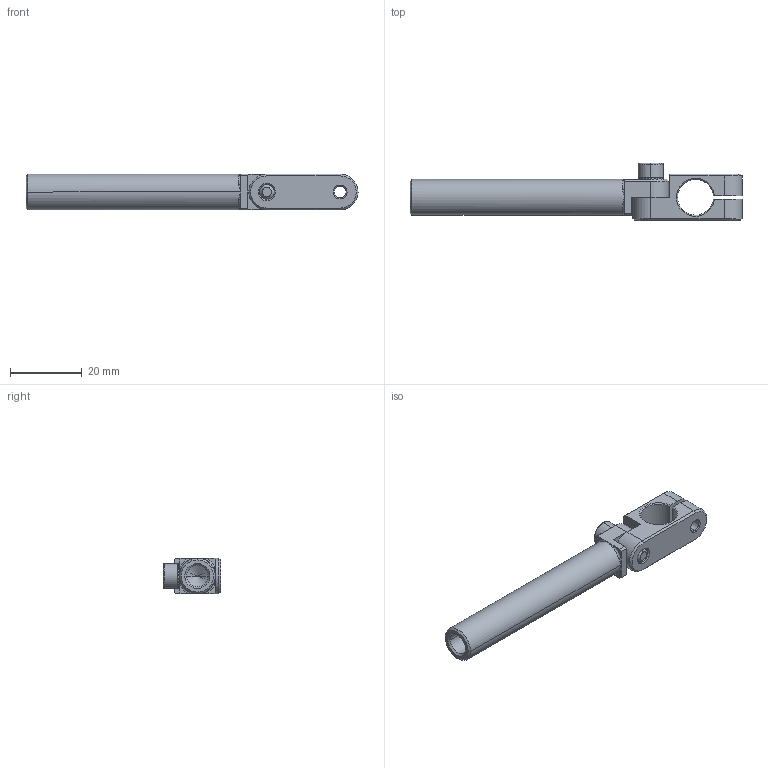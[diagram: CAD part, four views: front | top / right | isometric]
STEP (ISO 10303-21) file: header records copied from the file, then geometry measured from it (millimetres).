
FILE_DESCRIPTION (( 'STEP AP214' ), '1' );
FILE_NAME ('SEA-1010L60.STEP', '2019-11-11T02:23:12', ( '微软用户' ), ( '微软中国' ), 'SwSTEP 2.0', 'SolidWorks 2016', '' );
FILE_SCHEMA (( 'AUTOMOTIVE_DESIGN' ));
Length unit declared in the file: millimetre
Products named in the file (1): SEA-1010L60
Bounding box: 92.8 x 16 x 10 mm (x, y, z)
Volume: 6105.1 mm3; surface area: 5569.2 mm2
Topology: 4 solids, 4 shells, 296 faces, 825 edges, 528 vertices
Faces by surface type: plane 231, cylinder 26, cone 25, bspline 14
Entity records: 14695 total; most frequent: CARTESIAN_POINT 3684, ORIENTED_EDGE 1630, DIRECTION 1627, EDGE_CURVE 815, AXIS2_PLACEMENT_3D 553, VERTEX_POINT 528, VECTOR 521, LINE 521
